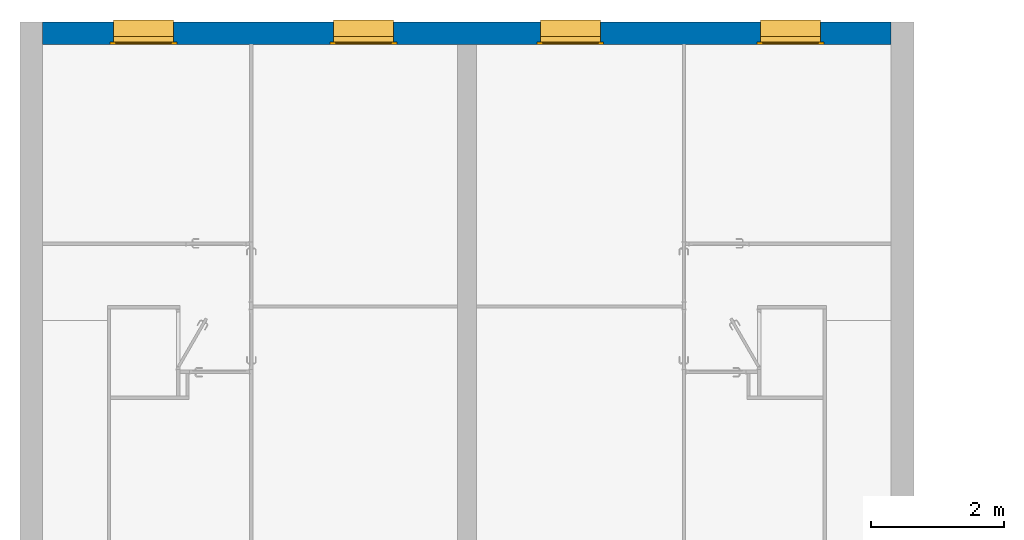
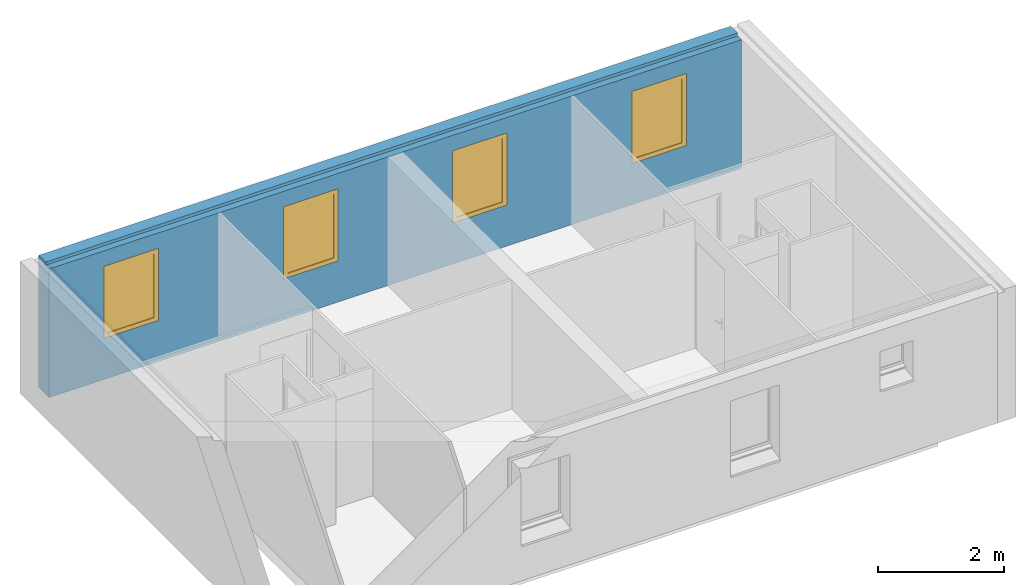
# One storey, part 11 of 13: 4 windows, 1 wall, 4 openings.
"""IFC2X3 building model written with IfcOpenShell, lengths in metres."""

from ifc_helpers import new_model, entity, si_unit, converted_unit, derived_unit, direction, frame, frame_2d, origin, origin_2d_with_axis, place, context, subcontext, project, spatial, polyline, rectangle, outline, extrude, clip, halfspace, bounded_halfspace, faceted_brep, source, transform, mapped, material, material_list, layer, layer_set, layer_usage, type_object, type_shapes, element, fill, save


model = new_model("IFC2X3")

# Units and contexts
model_context = context("Model", 3, precision=1e-05, world=origin(), true_north=direction((6.12303176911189e-17, 1.0)))
context_of_model = context(None, 3, precision=1e-05, world=origin(), true_north=direction((6.12303176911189e-17, 1.0)))
body_context = subcontext(model_context, "Body", "Model", "MODEL_VIEW")
ifc_project = project(units=[si_unit("LENGTHUNIT", "METRE"), si_unit("AREAUNIT", "SQUARE_METRE"), si_unit("VOLUMEUNIT", "CUBIC_METRE"), converted_unit("PLANEANGLEUNIT", "DEGREE", entity("IfcRatioMeasure", 0.0174532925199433), si_unit("PLANEANGLEUNIT", "RADIAN"), dimensions=[0, 0, 0, 0, 0, 0, 0]), si_unit("MASSUNIT", "GRAM", prefix="KILO"), si_unit("TIMEUNIT", "SECOND"), si_unit("FREQUENCYUNIT", "HERTZ"), si_unit("THERMODYNAMICTEMPERATUREUNIT", "DEGREE_CELSIUS"), derived_unit("THERMALTRANSMITTANCEUNIT", [(si_unit("MASSUNIT", "GRAM", prefix="KILO"), 1), (si_unit("THERMODYNAMICTEMPERATUREUNIT", "KELVIN"), -1), (si_unit("TIMEUNIT", "SECOND"), -3)]), derived_unit("VOLUMETRICFLOWRATEUNIT", [(si_unit("LENGTHUNIT", "METRE"), 3), (si_unit("TIMEUNIT", "SECOND"), -1)]), si_unit("ELECTRICCURRENTUNIT", "AMPERE"), si_unit("ELECTRICVOLTAGEUNIT", "VOLT"), si_unit("POWERUNIT", "WATT"), si_unit("FORCEUNIT", "NEWTON", prefix="KILO"), si_unit("ILLUMINANCEUNIT", "LUX"), si_unit("LUMINOUSFLUXUNIT", "LUMEN"), si_unit("LUMINOUSINTENSITYUNIT", "CANDELA"), derived_unit("USERDEFINED", [(si_unit("MASSUNIT", "GRAM", prefix="KILO"), -1), (si_unit("LENGTHUNIT", "METRE"), -2), (si_unit("TIMEUNIT", "SECOND"), 3), (si_unit("LUMINOUSFLUXUNIT", "LUMEN"), 1)]), derived_unit("LINEARVELOCITYUNIT", [(si_unit("LENGTHUNIT", "METRE"), 1), (si_unit("TIMEUNIT", "SECOND"), -1)]), si_unit("PRESSUREUNIT", "PASCAL"), derived_unit("USERDEFINED", [(si_unit("LENGTHUNIT", "METRE"), -2), (si_unit("MASSUNIT", "GRAM", prefix="KILO"), 1), (si_unit("TIMEUNIT", "SECOND"), -2)])], contexts=[model_context, context_of_model])

# Site, building, storey
site_placement = place(None, origin())
site = spatial("IfcSite", under=ifc_project, at=site_placement, Name="Surface", CompositionType="ELEMENT")
building_placement = place(site_placement, origin())
building = spatial("IfcBuilding", under=site, at=building_placement, CompositionType="ELEMENT")
storey_placement = place(building_placement, frame((0.0, 0.0, 2.74)))
storey = spatial("IfcBuildingStorey", under=building, at=storey_placement, Name="Plan étage", CompositionType="ELEMENT", Elevation=2.74)

# Wall, openings, windows
ifc_material_1 = material(Name="Maçonnerie - Enduit")
ifc_layer_1 = layer(ifc_material_1, 0.02)
ifc_material_2 = material(Name="Maçonnerie - Parpaing")
ifc_layer_2 = layer(ifc_material_2, 0.2)
ifc_material_3 = material(Name="Maçonnerie - Isolant")
ifc_layer_3 = layer(ifc_material_3, 0.11)
ifc_material_4 = material(Name="Maçonnerie - Isolant 1")
ifc_layer_4 = layer(ifc_material_4, 0.01)
ifc_layer_set = layer_set([ifc_layer_1, ifc_layer_2, ifc_layer_3, ifc_layer_4], Name="Mur de base:Mur de base Ext. Parpaing 20 + Isolant 12")
ifc_layer_usage = layer_usage(ifc_layer_set, "AXIS2", "NEGATIVE", 0.17)
wall_type = type_object("IfcWallType", Name="Mur de base:Mur de base Ext. Parpaing 20 + Isolant 12", PredefinedType="STANDARD", material=ifc_layer_set)
wall_placement = place(storey_placement, frame((-11.2960888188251, 5.51425578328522, 0.0)))
wall = element("IfcWallStandardCase", 1, at=wall_placement, inside=storey, type_object=wall_type, material=ifc_layer_usage, Name="Mur de base:Mur de base Ext. Parpaing 20 + Isolant 12", ObjectType="Mur de base:Mur de base Ext. Parpaing 20 + Isolant 12", context=body_context, shape_type="Clipping", body=[
    clip(clip(extrude(rectangle(XDim=12.72, YDim=0.340000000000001, at=frame_2d((6.35999999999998, 0.0), x_axis=(-1.0, 0.0))), origin(), (0.0, 0.0, 1.0), 2.56), bounded_halfspace(frame((0.0, -0.169999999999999, 2.5)), False, frame((0.0, -0.169999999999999, 2.5)), polyline([(0.0, 0.0), (6.21999999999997, 0.0), (6.49999999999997, 0.0), (12.72, 0.0), (12.72, 0.119999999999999), (0.0, 0.119999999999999), (0.0, 0.0)]))), halfspace(origin(), True)),
])
opening_1_placement = place(wall_placement, frame((4.31000000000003, -0.660000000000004, 0.680576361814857)))
opening_1 = element("IfcOpeningElement", 2, at=opening_1_placement, cuts=wall, Name="Mur de base:Mur de base Ext. Parpaing 20 + Isolant 12", ObjectType="Opening", context=body_context, shape_type="Brep", body=[
    faceted_brep([(0.0499999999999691, 0.0, 1.46942363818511), (0.0499999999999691, 0.0, 0.119423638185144), (0.949999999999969, 0.0, 0.119423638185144), (0.949999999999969, 0.0, 1.46942363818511), (0.0499999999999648, 1.35, 1.46942363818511), (0.949999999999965, 1.35, 1.46942363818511), (0.949999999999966, 1.35, 0.0), (0.0499999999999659, 1.35, 0.0), (0.949999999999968, 0.490000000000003, 1.46942363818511), (0.0499999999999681, 0.490000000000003, 1.46942363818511), (0.949999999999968, 0.490000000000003, 0.119423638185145), (0.0499999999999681, 0.490000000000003, 0.119423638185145), (0.0, 0.490000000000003, 0.119423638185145), (0.0, 0.530000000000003, 0.119423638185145), (0.0499999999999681, 0.530000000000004, 0.119423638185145), (0.949999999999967, 0.530000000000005, 0.119423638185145), (1.0, 0.530000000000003, 0.119423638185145), (1.0, 0.490000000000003, 0.119423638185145), (0.949999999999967, 0.580000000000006, 0.0), (0.049999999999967, 0.580000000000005, 0.0), (0.949999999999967, 0.530000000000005, 0.0415343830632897), (0.049999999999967, 0.530000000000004, 0.0415343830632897), (1.0, 0.490000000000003, 1.51942363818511), (0.0, 0.490000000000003, 1.51942363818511), (1.0, 0.530000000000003, 1.51942363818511), (0.949999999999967, 0.530000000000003, 1.46942363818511), (0.049999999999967, 0.530000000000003, 1.46942363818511), (0.0, 0.530000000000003, 1.51942363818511)], [[[0, 1, 2, 3]], [[4, 5, 6, 7]], [[0, 3, 8, 9]], [[3, 2, 10, 8]], [[2, 1, 11, 12, 13, 14, 15, 16, 17, 10]], [[1, 0, 9, 11]], [[6, 18, 19, 7]], [[18, 20, 21, 19]], [[20, 15, 14, 21]], [[17, 22, 23, 12, 11, 9, 8, 10]], [[17, 16, 24, 22]], [[24, 16, 15, 25, 26, 14, 13, 27]], [[23, 22, 24, 27]], [[12, 23, 27, 13]], [[7, 19, 21, 14, 26, 4]], [[15, 20, 18, 6, 5, 25]], [[5, 4, 26, 25]]]),
])
opening_2_placement = place(wall_placement, frame((1.01000000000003, -0.660000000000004, 0.680576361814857)))
opening_2 = element("IfcOpeningElement", 3, at=opening_2_placement, cuts=wall, Name="Mur de base:Mur de base Ext. Parpaing 20 + Isolant 12", ObjectType="Opening", context=body_context, shape_type="Brep", body=[
    faceted_brep([(0.949999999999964, 0.0, 1.46942363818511), (0.0499999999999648, 0.0, 1.46942363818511), (0.0499999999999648, 0.0, 0.119423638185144), (0.949999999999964, 0.0, 0.119423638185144), (0.949999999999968, 1.35, 1.46942363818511), (0.949999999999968, 1.35, 0.0), (0.049999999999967, 1.35, 0.0), (0.0499999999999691, 1.35, 1.46942363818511), (0.949999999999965, 0.490000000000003, 1.46942363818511), (0.0499999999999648, 0.490000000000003, 1.46942363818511), (0.049999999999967, 0.490000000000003, 0.119423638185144), (0.0, 0.490000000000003, 0.119423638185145), (0.0, 0.530000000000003, 0.119423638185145), (0.049999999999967, 0.530000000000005, 0.119423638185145), (0.949999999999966, 0.530000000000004, 0.119423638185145), (1.0, 0.530000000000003, 0.119423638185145), (1.0, 0.490000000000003, 0.119423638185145), (0.949999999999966, 0.490000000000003, 0.119423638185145), (0.949999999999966, 0.580000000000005, 0.0), (0.0499999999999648, 0.580000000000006, 0.0), (0.949999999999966, 0.530000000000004, 0.0415343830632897), (0.0499999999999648, 0.530000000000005, 0.0415343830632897), (1.0, 0.490000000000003, 1.51942363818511), (0.0, 0.490000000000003, 1.51942363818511), (0.0, 0.530000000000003, 1.51942363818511), (1.0, 0.530000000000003, 1.51942363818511), (0.949999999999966, 0.530000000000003, 1.46942363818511), (0.0499999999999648, 0.530000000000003, 1.46942363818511)], [[[0, 1, 2, 3]], [[4, 5, 6, 7]], [[0, 8, 9, 1]], [[1, 9, 10, 2]], [[2, 10, 11, 12, 13, 14, 15, 16, 17, 3]], [[3, 17, 8, 0]], [[6, 5, 18, 19]], [[19, 18, 20, 21]], [[21, 20, 14, 13]], [[11, 10, 9, 8, 17, 16, 22, 23]], [[11, 23, 24, 12]], [[24, 25, 15, 14, 26, 27, 13, 12]], [[22, 25, 24, 23]], [[16, 15, 25, 22]], [[5, 4, 26, 14, 20, 18]], [[13, 27, 7, 6, 19, 21]], [[7, 27, 26, 4]]]),
])
opening_3_placement = place(wall_placement, frame((7.41, -0.660000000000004, 0.680576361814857)))
opening_3 = element("IfcOpeningElement", 4, at=opening_3_placement, cuts=wall, Name="Mur de base:Mur de base Ext. Parpaing 20 + Isolant 12", ObjectType="Opening", context=body_context, shape_type="Brep", body=[
    faceted_brep([(0.949999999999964, 0.0, 1.46942363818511), (0.0499999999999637, 0.0, 1.46942363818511), (0.0499999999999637, 0.0, 0.119423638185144), (0.949999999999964, 0.0, 0.119423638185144), (0.949999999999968, 1.35, 1.46942363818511), (0.949999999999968, 1.35, 0.0), (0.049999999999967, 1.35, 0.0), (0.0499999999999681, 1.35, 1.46942363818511), (0.949999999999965, 0.490000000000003, 1.46942363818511), (0.0499999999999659, 0.490000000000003, 1.46942363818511), (0.0499999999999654, 0.490000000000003, 0.119423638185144), (0.0, 0.490000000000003, 0.119423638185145), (0.0, 0.530000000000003, 0.119423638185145), (0.0499999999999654, 0.530000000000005, 0.119423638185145), (0.949999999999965, 0.530000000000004, 0.119423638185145), (1.0, 0.530000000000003, 0.119423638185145), (1.0, 0.490000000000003, 0.119423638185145), (0.949999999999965, 0.490000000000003, 0.119423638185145), (0.949999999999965, 0.580000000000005, 0.0), (0.0499999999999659, 0.580000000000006, 0.0), (0.949999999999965, 0.530000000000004, 0.0415343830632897), (0.0499999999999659, 0.530000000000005, 0.0415343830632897), (1.0, 0.490000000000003, 1.51942363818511), (0.0, 0.490000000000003, 1.51942363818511), (0.0, 0.530000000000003, 1.51942363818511), (1.0, 0.530000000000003, 1.51942363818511), (0.949999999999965, 0.530000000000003, 1.46942363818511), (0.0499999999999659, 0.530000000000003, 1.46942363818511)], [[[0, 1, 2, 3]], [[4, 5, 6, 7]], [[0, 8, 9, 1]], [[1, 9, 10, 2]], [[2, 10, 11, 12, 13, 14, 15, 16, 17, 3]], [[3, 17, 8, 0]], [[6, 5, 18, 19]], [[19, 18, 20, 21]], [[21, 20, 14, 13]], [[11, 10, 9, 8, 17, 16, 22, 23]], [[11, 23, 24, 12]], [[24, 25, 15, 14, 26, 27, 13, 12]], [[22, 25, 24, 23]], [[16, 15, 25, 22]], [[5, 4, 26, 14, 20, 18]], [[13, 27, 7, 6, 19, 21]], [[7, 27, 26, 4]]]),
])
opening_4_placement = place(wall_placement, frame((10.71, -0.660000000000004, 0.680576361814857)))
opening_4 = element("IfcOpeningElement", 5, at=opening_4_placement, cuts=wall, Name="Mur de base:Mur de base Ext. Parpaing 20 + Isolant 12", ObjectType="Opening", context=body_context, shape_type="Brep", body=[
    faceted_brep([(0.949999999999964, 0.0, 1.46942363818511), (0.0499999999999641, 0.0, 1.46942363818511), (0.0499999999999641, 0.0, 0.119423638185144), (0.949999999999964, 0.0, 0.119423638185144), (0.949999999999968, 1.35, 1.46942363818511), (0.949999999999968, 1.35, 0.0), (0.0499999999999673, 1.35, 0.0), (0.0499999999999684, 1.35, 1.46942363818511), (0.949999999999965, 0.490000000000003, 1.46942363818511), (0.0499999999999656, 0.490000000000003, 1.46942363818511), (0.0499999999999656, 0.490000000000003, 0.119423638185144), (0.0, 0.490000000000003, 0.119423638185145), (0.0, 0.530000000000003, 0.119423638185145), (0.0499999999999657, 0.530000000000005, 0.119423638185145), (0.949999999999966, 0.530000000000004, 0.119423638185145), (1.0, 0.530000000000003, 0.119423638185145), (1.0, 0.490000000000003, 0.119423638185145), (0.949999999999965, 0.490000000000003, 0.119423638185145), (0.949999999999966, 0.580000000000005, 0.0), (0.049999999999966, 0.580000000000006, 0.0), (0.949999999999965, 0.530000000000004, 0.0415343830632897), (0.0499999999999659, 0.530000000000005, 0.0415343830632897), (1.0, 0.490000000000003, 1.51942363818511), (0.0, 0.490000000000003, 1.51942363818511), (0.0, 0.530000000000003, 1.51942363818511), (1.0, 0.530000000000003, 1.51942363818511), (0.949999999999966, 0.530000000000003, 1.46942363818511), (0.0499999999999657, 0.530000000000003, 1.46942363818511)], [[[0, 1, 2, 3]], [[4, 5, 6, 7]], [[0, 8, 9, 1]], [[1, 9, 10, 2]], [[2, 10, 11, 12, 13, 14, 15, 16, 17, 3]], [[3, 17, 8, 0]], [[6, 5, 18, 19]], [[19, 18, 20, 21]], [[21, 20, 14, 13]], [[11, 10, 9, 8, 17, 16, 22, 23]], [[11, 23, 24, 12]], [[24, 25, 15, 14, 26, 27, 13, 12]], [[22, 25, 24, 23]], [[16, 15, 25, 22]], [[5, 4, 26, 14, 20, 18]], [[13, 27, 7, 6, 19, 21]], [[7, 27, 26, 4]]]),
])
ifc_material_5 = material(Name="Appui")
ifc_material_6 = material(Name="Huisserie")
ifc_material_7 = material(Name="Verre")
ifc_material_list_1 = material_list([ifc_material_5, ifc_material_6, ifc_material_7])
ifc_material_list_2 = material_list([ifc_material_5, ifc_material_6, ifc_material_7])
window_style_1 = type_object("IfcWindowStyle", Name="90x135", ConstructionType="NOTDEFINED", OperationType="NOTDEFINED", ParameterTakesPrecedence=False, Sizeable=False, material=ifc_material_list_2)
shared_shape_1 = source(origin(), body_context, "Body", "SweptSolid", [
    extrude(outline(polyline([(-0.0614771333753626, -0.0657142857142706), (-0.0614771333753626, -0.115714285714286), (0.0164121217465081, -0.115714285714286), (0.0579465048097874, -0.0657142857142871), (0.0579465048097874, 0.2142857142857), (0.0182470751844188, 0.2142857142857), (-0.0275979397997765, -0.0657142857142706), (-0.0614771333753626, -0.0657142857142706)])), frame((1.23999999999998, -0.915952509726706, 0.0579465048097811), z_axis=(1.0, 0.0, 0.0), x_axis=(0.0, 0.0, -1.0)), (0.0, 0.0, -1.0), 0.9),
    extrude(outline(polyline([(-0.00493030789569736, -0.0400000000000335), (0.0134200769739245, -0.0400000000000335), (0.0134200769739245, 0.0400000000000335), (-0.021909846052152, 0.0400000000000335), (-0.00493030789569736, -0.0400000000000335)])), frame((1.23999999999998, -0.991666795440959, 0.132843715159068), z_axis=(-1.0, 0.0, 0.0), x_axis=(0.0, 0.0, -1.0)), (0.0, 0.0, 1.0), 0.9),
    extrude(outline(polyline([(-0.499999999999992, -0.69997185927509), (0.499999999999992, -0.69997185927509), (0.499999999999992, 0.699971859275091), (-0.499999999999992, 0.699971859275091), (-0.499999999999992, -0.69997185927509)]), holes=[polyline([(-0.419999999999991, 0.61997185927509), (0.419999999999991, 0.61997185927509), (0.419999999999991, -0.619971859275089), (-0.419999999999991, -0.619971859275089), (-0.419999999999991, 0.61997185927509)])]), frame((0.789999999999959, -1.03166679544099, 0.819395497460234), z_axis=(0.0, -1.0, 0.0), x_axis=(-1.0, 0.0, 0.0)), (0.0, 0.0, 1.0), 0.0399999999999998),
    extrude(rectangle(XDim=0.839999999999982, YDim=0.0100226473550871, at=frame_2d((2.77555756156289e-17, 0.0), x_axis=(1.0, 0.0))), frame((0.789999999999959, -1.05165673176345, 0.199423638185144)), (0.0, 0.0, 1.0), 1.23994371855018),
])
type_shapes(window_style_1, [shared_shape_1])
window_1_placement = place(opening_1_placement, frame((-0.290000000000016, 1.561666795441, 0.0)))
window_1 = element("IfcWindow", 6, at=window_1_placement, inside=storey, type_object=window_style_1, material=ifc_material_list_1, Name="FR_1  Vantail Appui Béton:90x135", ObjectType="90x135", OverallHeight=1.65997242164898, OverallWidth=0.999999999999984, context=body_context, shape_type="MappedRepresentation", body=[
    mapped(shared_shape_1, transform((0.0, 0.0, 0.0), scale=1.0)),
])
fill(opening_1, window_1)
ifc_material_list_3 = material_list([ifc_material_5, ifc_material_6, ifc_material_7])
ifc_material_list_4 = material_list([ifc_material_5, ifc_material_6, ifc_material_7])
window_style_2 = type_object("IfcWindowStyle", Name="90x135", ConstructionType="NOTDEFINED", OperationType="NOTDEFINED", ParameterTakesPrecedence=False, Sizeable=False, material=ifc_material_list_4)
shared_shape_2 = source(origin(), body_context, "Body", "SweptSolid", [
    extrude(outline(polyline([(0.0657142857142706, -0.0614771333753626), (0.115714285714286, -0.0614771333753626), (0.115714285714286, 0.0164121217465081), (0.0657142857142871, 0.0579465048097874), (-0.2142857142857, 0.0579465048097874), (-0.2142857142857, 0.0182470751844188), (0.0657142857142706, -0.0275979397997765), (0.0657142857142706, -0.0614771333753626)])), frame((0.0499999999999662, -0.704285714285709, 0.0579465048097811), z_axis=(1.0, 0.0, 0.0), x_axis=(0.0, -1.0, 0.0)), (0.0, 0.0, 1.0), 0.9),
    extrude(outline(polyline([(-0.0381047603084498, -0.0131276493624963), (0.0436772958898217, -0.0131276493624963), (0.0363421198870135, 0.0214324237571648), (-0.0419146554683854, 0.00482287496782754), (-0.0381047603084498, -0.0131276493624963)])), frame((0.0499999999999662, -0.779999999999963, 0.132843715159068), z_axis=(1.0, 0.0, 0.0), x_axis=(0.0, -0.978209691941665, 0.207619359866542)), (0.0, 0.0, 1.0), 0.899999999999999),
    extrude(outline(polyline([(-0.699971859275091, -0.499999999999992), (0.69997185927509, -0.499999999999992), (0.69997185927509, 0.499999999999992), (-0.699971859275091, 0.499999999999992), (-0.699971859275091, -0.499999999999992)]), holes=[polyline([(0.619971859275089, -0.419999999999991), (-0.61997185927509, -0.419999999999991), (-0.61997185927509, 0.419999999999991), (0.619971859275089, 0.419999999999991), (0.619971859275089, -0.419999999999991)])]), frame((0.499999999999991, -0.859999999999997, 0.819395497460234), z_axis=(0.0, 1.0, 0.0), x_axis=(0.0, 0.0, 1.0)), (0.0, 0.0, 1.0), 0.0399999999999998),
    extrude(rectangle(XDim=0.0100226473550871, YDim=0.839999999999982, at=origin_2d_with_axis()), frame((0.499999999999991, -0.839989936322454, 0.199423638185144), z_axis=(0.0, 0.0, 1.0), x_axis=(0.0, 1.0, 0.0)), (0.0, 0.0, 1.0), 1.23994371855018),
])
type_shapes(window_style_2, [shared_shape_2])
window_2_placement = place(opening_2_placement, frame((0.0, 1.35, 0.0)))
window_2 = element("IfcWindow", 7, at=window_2_placement, inside=storey, type_object=window_style_2, material=ifc_material_list_3, Name="FR_1  Vantail Appui Béton:90x135", ObjectType="90x135", OverallHeight=1.65997242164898, OverallWidth=0.999999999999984, context=body_context, shape_type="MappedRepresentation", body=[
    mapped(shared_shape_2, transform((0.0, 0.0, 0.0), scale=1.0)),
])
fill(opening_2, window_2)
ifc_material_list_5 = material_list([ifc_material_5, ifc_material_6, ifc_material_7])
window_3_placement = place(opening_3_placement, frame((0.0, 1.35, 0.0)))
window_3 = element("IfcWindow", 8, at=window_3_placement, inside=storey, type_object=window_style_2, material=ifc_material_list_5, Name="FR_1  Vantail Appui Béton:90x135", ObjectType="90x135", OverallHeight=1.65997242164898, OverallWidth=0.999999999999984, context=body_context, shape_type="MappedRepresentation", body=[
    mapped(shared_shape_2, transform((0.0, 0.0, 0.0), scale=1.0)),
])
fill(opening_3, window_3)
ifc_material_list_6 = material_list([ifc_material_5, ifc_material_6, ifc_material_7])
window_4_placement = place(opening_4_placement, frame((0.0, 1.35, 0.0)))
window_4 = element("IfcWindow", 9, at=window_4_placement, inside=storey, type_object=window_style_2, material=ifc_material_list_6, Name="FR_1  Vantail Appui Béton:90x135", ObjectType="90x135", OverallHeight=1.65997242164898, OverallWidth=0.999999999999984, context=body_context, shape_type="MappedRepresentation", body=[
    mapped(shared_shape_2, transform((0.0, 0.0, 0.0), scale=1.0)),
])
fill(opening_4, window_4)

save(model, "model.ifc")
